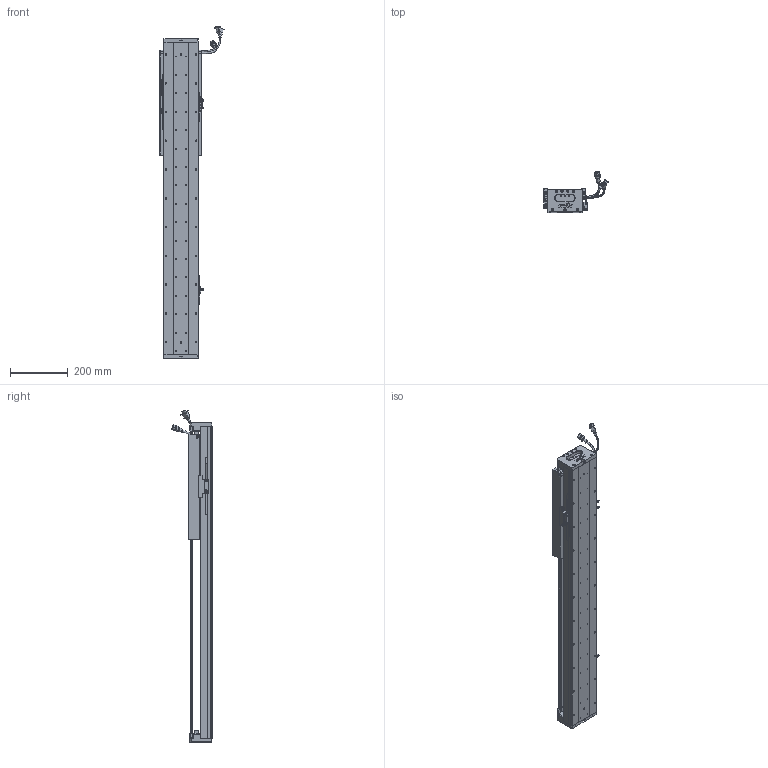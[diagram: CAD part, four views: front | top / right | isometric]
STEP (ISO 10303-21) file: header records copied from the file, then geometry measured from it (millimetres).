
FILE_DESCRIPTION (( 'STEP AP203' ), '1' );
FILE_NAME ('Z5-RY120D-1-L500-B-K.SLDASM_0650.step', '2021-05-17T06:21:35', ( '盈信电脑' ), ( '东莞市道滘镇水果街19号' ), 'SwSTEP 2.0', 'SolidWorks 2016', '' );
FILE_SCHEMA (( 'CONFIG_CONTROL_DESIGN' ));
Length unit declared in the file: millimetre
Products named in the file (37): Z-RY120D詩湍奻揤裔; COVER-Part-1; SCALE; Z5-RY120-500-倰第菁釱_0650; HARNESS-Part-1; SCREW-M1.6-2; Z5-RY120-L500詩湍100mm遵_0650; PSLH080_PSLF2; SCREW-M1.6-3; SCREW-M1.6; COVER; SCREW-M1.7; Z5-RY120铝滑块（21款）; Z-RY120D詩湍狟揤裔; 覜茼ん672; HARNESS; 120-Z-臏賑輸盄裔(21遴); 榋妏寠巭燃_暯_M2_2; SHIELDPLATE; LABEL-Part-1; 080黍杅芛假蚾釱21遴; Z-120詩湍傷裔啣; PBU_SHEET; HARNESS-Part-2; SCREW-M1.7-1; 672嫖萇羲壽假蚾釱; SCREW-M1.6-1; SEAL-Part-1; SCALE-Part-1; SCALE-Part-2; 140蚥薯蝶輸; SEAL; RY100FB-遵嫖萇覜茼え; LABEL; Z5-RY120D-1-L500-B-K.SLDASM_0650; 140雄赽晤鎢ん堤盄; HOLDER0
Assembly tree (43 placements, depth 4):
  Z5-RY120D-1-L500-B-K.SLDASM_0650
    Z5-RY120-500-倰第菁釱_0650
    覜茼ん672  x3
    672嫖萇羲壽假蚾釱  x2
    Z5-RY120铝滑块（21款）
    PSLH080_PSLF2
      SCALE
        SCALE-Part-1
        SCALE-Part-2
      HARNESS
        HARNESS-Part-1
        HARNESS-Part-2
      LABEL
        LABEL-Part-1
      COVER
        COVER-Part-1
      SEAL
        SEAL-Part-1
      榋妏寠巭燃_暯_M2_2
      SHIELDPLATE
      SCREW-M1.7
      SCREW-M1.7-1
      PBU_SHEET
      SCREW-M1.6
      SCREW-M1.6-1
      SCREW-M1.6-2
      SCREW-M1.6-3
      HOLDER0
    080黍杅芛假蚾釱21遴
    120-Z-臏賑輸盄裔(21遴)
    140雄赽晤鎢ん堤盄
    140蚥薯蝶輸  x2
    RY100FB-遵嫖萇覜茼え
    Z-120詩湍傷裔啣  x2
    Z-RY120D詩湍奻揤裔  x2
    Z-RY120D詩湍狟揤裔  x2
    Z5-RY120-L500詩湍100mm遵_0650
Bounding box: 222.87 x 140.94 x 1154 mm (x, y, z)
Volume: 3559199.1 mm3; surface area: 1131440.9 mm2
Topology: 38 solids, 38 shells, 2909 faces, 7871 edges, 4976 vertices
Faces by surface type: cylinder 1367, plane 1138, cone 282, torus 69, bspline 53
Entity records: 88108 total; most frequent: CARTESIAN_POINT 23565, ORIENTED_EDGE 12702, DIRECTION 12497, EDGE_CURVE 6351, AXIS2_PLACEMENT_3D 4598, VERTEX_POINT 4096, LINE 3301, VECTOR 3301
